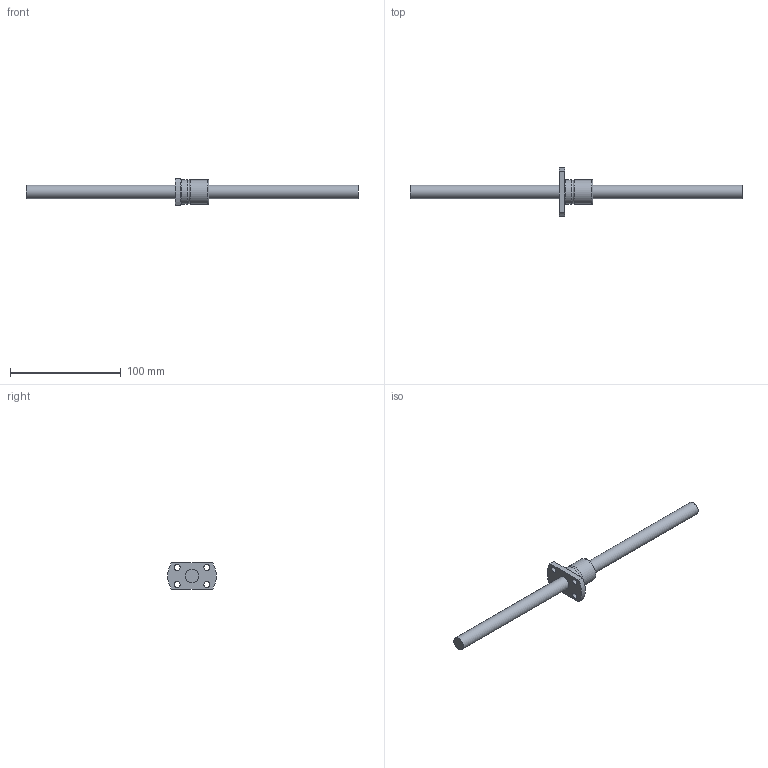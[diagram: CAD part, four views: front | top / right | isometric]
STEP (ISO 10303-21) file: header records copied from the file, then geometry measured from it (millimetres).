
FILE_DESCRIPTION((''),'2;1');
FILE_NAME('D:\製品 (図面)\カタログ用3D\ネジ関連\STEP形式\TMK-OH\TMK12-OH.stp','2010-06-02T15:27:09',('Tsuchiya'),(''),'Autodesk Inventor 10','Autodesk Inventor 10','');
FILE_SCHEMA(('AUTOMOTIVE_DESIGN { 1 0 10303 214 1 1 1 1 }'));
Length unit declared in the file: millimetre
Products named in the file (3): TMK12-OH; TMK12-OH1; TMK12-OH2
Assembly tree (2 placements, depth 2):
  TMK12-OH
    TMK12-OH1
    TMK12-OH2
Bounding box: 300 x 43.85 x 24 mm (x, y, z)
Volume: 44509.5 mm3; surface area: 16934.6 mm2
Topology: 2 solids, 2 shells, 21 faces, 49 edges, 33 vertices
Faces by surface type: cylinder 7, plane 7, bspline 6, torus 1
Full cylindrical faces by diameter (mm): 1.5 x1, 12 x2, 22 x2
Entity records: 866 total; most frequent: CARTESIAN_POINT 372, DIRECTION 92, ORIENTED_EDGE 64, EDGE_LOOP 46, AXIS2_PLACEMENT_3D 42, EDGE_CURVE 32, VERTEX_POINT 28, FACE_BOUND 25
